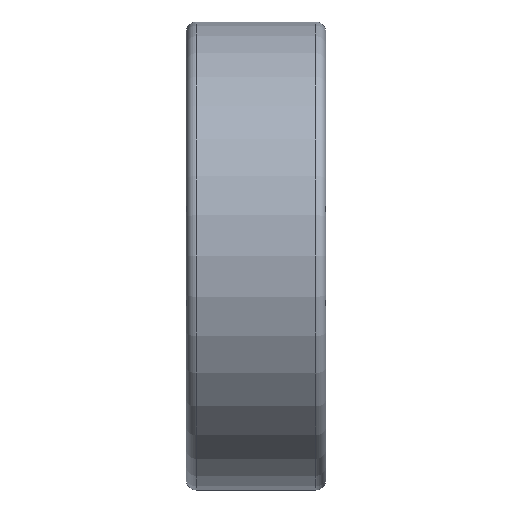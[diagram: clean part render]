
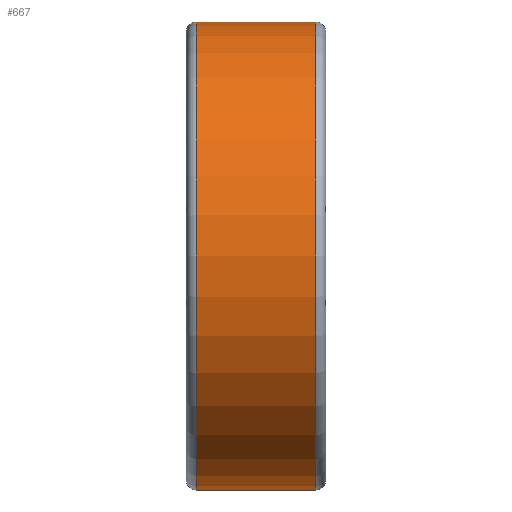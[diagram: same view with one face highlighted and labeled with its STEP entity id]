
A CAD part, front view. The second image highlights one B-rep face of the part: STEP entity #667.
In plain terms, the highlighted cylindrical face has radius 23.5 mm (diameter 47 mm), a full revolution.
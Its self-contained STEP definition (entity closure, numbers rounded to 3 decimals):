
#40=LINE('',#1284,#46);
#46=VECTOR('',#1051,23.5);
#52=CYLINDRICAL_SURFACE('',#812,23.5);
#116=FACE_OUTER_BOUND('',#169,.T.);
#169=EDGE_LOOP('',(#596,#597,#598,#599,#600,#601));
#252=CIRCLE('',#807,23.5);
#253=CIRCLE('',#808,23.5);
#256=CIRCLE('',#813,23.5);
#257=CIRCLE('',#814,23.5);
#349=VERTEX_POINT('',#1272);
#350=VERTEX_POINT('',#1273);
#352=VERTEX_POINT('',#1281);
#353=VERTEX_POINT('',#1282);
#434=EDGE_CURVE('',#349,#350,#252,.T.);
#435=EDGE_CURVE('',#350,#349,#253,.T.);
#438=EDGE_CURVE('',#352,#353,#256,.T.);
#439=EDGE_CURVE('',#352,#350,#40,.T.);
#440=EDGE_CURVE('',#353,#352,#257,.T.);
#596=ORIENTED_EDGE('',*,*,#438,.F.);
#597=ORIENTED_EDGE('',*,*,#439,.T.);
#598=ORIENTED_EDGE('',*,*,#434,.F.);
#599=ORIENTED_EDGE('',*,*,#435,.F.);
#600=ORIENTED_EDGE('',*,*,#439,.F.);
#601=ORIENTED_EDGE('',*,*,#440,.F.);
#667=ADVANCED_FACE('',(#116),#52,.T.);
#807=AXIS2_PLACEMENT_3D('',#1274,#1037,#1038);
#808=AXIS2_PLACEMENT_3D('',#1275,#1039,#1040);
#812=AXIS2_PLACEMENT_3D('',#1280,#1047,#1048);
#813=AXIS2_PLACEMENT_3D('',#1283,#1049,#1050);
#814=AXIS2_PLACEMENT_3D('',#1285,#1052,#1053);
#1037=DIRECTION('center_axis',(-1.,0.,0.));
#1038=DIRECTION('ref_axis',(0.,-1.,0.));
#1039=DIRECTION('center_axis',(-1.,0.,0.));
#1040=DIRECTION('ref_axis',(0.,-1.,0.));
#1047=DIRECTION('center_axis',(1.,0.,0.));
#1048=DIRECTION('ref_axis',(0.,1.,0.));
#1049=DIRECTION('center_axis',(1.,0.,0.));
#1050=DIRECTION('ref_axis',(0.,-1.,0.));
#1051=DIRECTION('',(-1.,0.,0.));
#1052=DIRECTION('center_axis',(1.,0.,0.));
#1053=DIRECTION('ref_axis',(0.,-1.,0.));
#1272=CARTESIAN_POINT('',(1.,0.,23.5));
#1273=CARTESIAN_POINT('',(1.,-23.5,0.));
#1274=CARTESIAN_POINT('Origin',(1.,0.,0.));
#1275=CARTESIAN_POINT('Origin',(1.,0.,0.));
#1280=CARTESIAN_POINT('Origin',(7.,0.,0.));
#1281=CARTESIAN_POINT('',(13.,-23.5,0.));
#1282=CARTESIAN_POINT('',(13.,0.,23.5));
#1283=CARTESIAN_POINT('Origin',(13.,0.,0.));
#1284=CARTESIAN_POINT('',(7.,-23.5,0.));
#1285=CARTESIAN_POINT('Origin',(13.,0.,0.));
